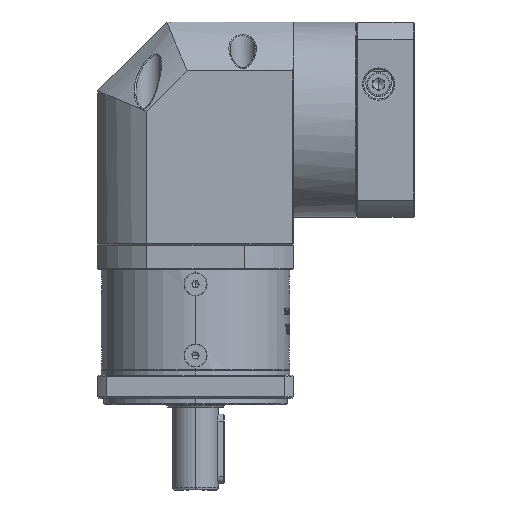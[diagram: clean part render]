
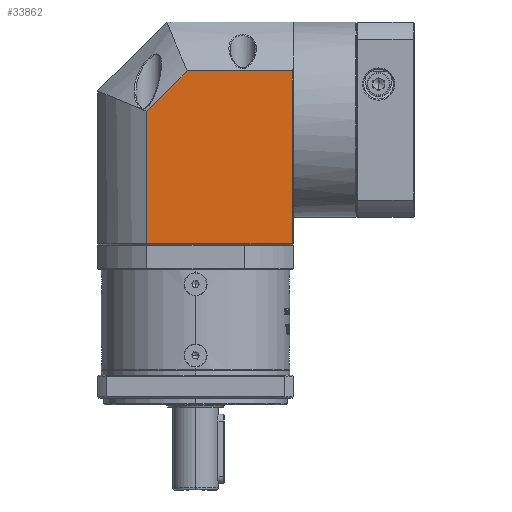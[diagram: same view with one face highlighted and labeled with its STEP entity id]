
A CAD part, front view. The second image highlights one B-rep face of the part: STEP entity #33862.
In plain terms, the highlighted planar face has unit normal (0, -1, 0).
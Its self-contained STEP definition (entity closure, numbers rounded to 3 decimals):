
#1037 = EDGE_LOOP ( 'NONE', ( #82420, #40536, #97598, #145156, #56699 ) ) ;
#1463 = LINE ( 'NONE', #46356, #74298 ) ;
#2096 = AXIS2_PLACEMENT_3D ( 'NONE', #84770, #2774, #98529 ) ;
#2774 = DIRECTION ( 'NONE',  ( 0., 1., 0. ) ) ;
#3848 = CARTESIAN_POINT ( 'NONE',  ( 51.536, -29.557, 94.85 ) ) ;
#9380 = CARTESIAN_POINT ( 'NONE',  ( 52.036, -29.557, 94.85 ) ) ;
#13746 = VECTOR ( 'NONE', #105153, 1000. ) ;
#23818 = CARTESIAN_POINT ( 'NONE',  ( -11.677, -29.557, 152.533 ) ) ;
#26068 = LINE ( 'NONE', #75467, #94560 ) ;
#28329 = DIRECTION ( 'NONE',  ( 0., 0., 1. ) ) ;
#29767 = PLANE ( 'NONE',  #2096 ) ;
#33862 = ADVANCED_FACE ( 'NONE', ( #150711 ), #29767, .F. ) ;
#36110 = EDGE_CURVE ( 'NONE', #130609, #137890, #108796, .T. ) ;
#40536 = ORIENTED_EDGE ( 'NONE', *, *, #111990, .F. ) ;
#46356 = CARTESIAN_POINT ( 'NONE',  ( -11.677, -29.557, 152.533 ) ) ;
#56699 = ORIENTED_EDGE ( 'NONE', *, *, #36110, .F. ) ;
#57008 = VERTEX_POINT ( 'NONE', #167030 ) ;
#59460 = DIRECTION ( 'NONE',  ( 0.707, 0., 0.707 ) ) ;
#70820 = VECTOR ( 'NONE', #99964, 1000. ) ;
#74298 = VECTOR ( 'NONE', #59460, 1000. ) ;
#75118 = LINE ( 'NONE', #127525, #70820 ) ;
#75467 = CARTESIAN_POINT ( 'NONE',  ( 51.536, -29.557, 191.35 ) ) ;
#82192 = EDGE_CURVE ( 'NONE', #137890, #57008, #1463, .T. ) ;
#82420 = ORIENTED_EDGE ( 'NONE', *, *, #98473, .T. ) ;
#84770 = CARTESIAN_POINT ( 'NONE',  ( 52.036, -29.557, 191.35 ) ) ;
#89202 = DIRECTION ( 'NONE',  ( 0., 0., -1. ) ) ;
#94560 = VECTOR ( 'NONE', #89202, 1000. ) ;
#97598 = ORIENTED_EDGE ( 'NONE', *, *, #120658, .F. ) ;
#98473 = EDGE_CURVE ( 'NONE', #130609, #149410, #122948, .T. ) ;
#98529 = DIRECTION ( 'NONE',  ( -1., 0., 0. ) ) ;
#99964 = DIRECTION ( 'NONE',  ( 1., 0., 0. ) ) ;
#105153 = DIRECTION ( 'NONE',  ( 1., 0., 0. ) ) ;
#108796 = LINE ( 'NONE', #124053, #140937 ) ;
#111271 = VERTEX_POINT ( 'NONE', #161469 ) ;
#111990 = EDGE_CURVE ( 'NONE', #111271, #149410, #26068, .T. ) ;
#120658 = EDGE_CURVE ( 'NONE', #57008, #111271, #75118, .T. ) ;
#122948 = LINE ( 'NONE', #9380, #13746 ) ;
#124053 = CARTESIAN_POINT ( 'NONE',  ( -11.677, -29.557, 191.35 ) ) ;
#127525 = CARTESIAN_POINT ( 'NONE',  ( 52.036, -29.557, 170.063 ) ) ;
#130609 = VERTEX_POINT ( 'NONE', #175608 ) ;
#137890 = VERTEX_POINT ( 'NONE', #23818 ) ;
#140937 = VECTOR ( 'NONE', #28329, 1000. ) ;
#145156 = ORIENTED_EDGE ( 'NONE', *, *, #82192, .F. ) ;
#149410 = VERTEX_POINT ( 'NONE', #3848 ) ;
#150711 = FACE_OUTER_BOUND ( 'NONE', #1037, .T. ) ;
#161469 = CARTESIAN_POINT ( 'NONE',  ( 51.536, -29.557, 170.063 ) ) ;
#167030 = CARTESIAN_POINT ( 'NONE',  ( 5.853, -29.557, 170.063 ) ) ;
#175608 = CARTESIAN_POINT ( 'NONE',  ( -11.677, -29.557, 94.85 ) ) ;
